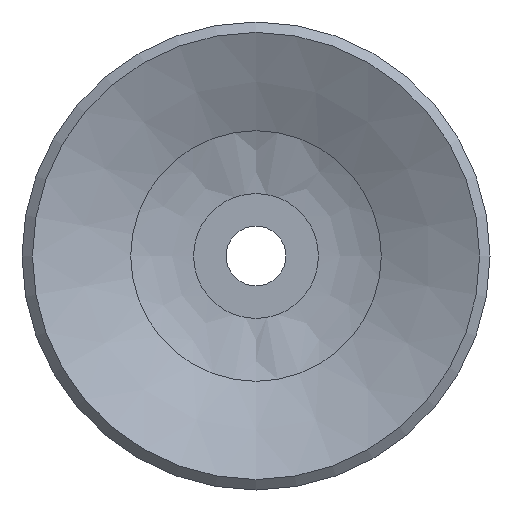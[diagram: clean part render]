
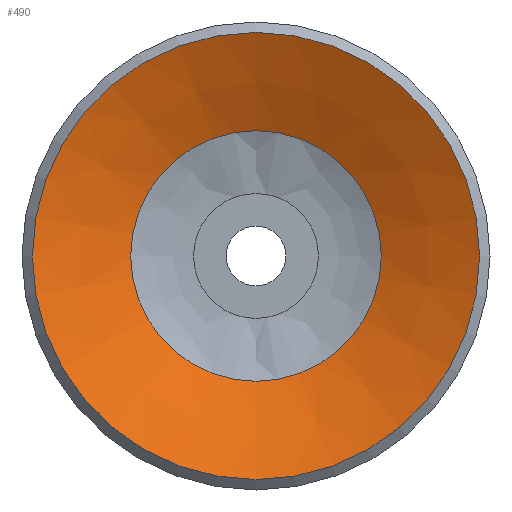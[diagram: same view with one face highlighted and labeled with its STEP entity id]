
A CAD part, front view. The second image highlights one B-rep face of the part: STEP entity #490.
In plain terms, the highlighted conical face has half-angle 65.056 degrees and reference radius 3.2 mm.
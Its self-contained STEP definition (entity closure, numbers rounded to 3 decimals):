
#490=ADVANCED_FACE('',(#726,#727),#728,.F.);
#726=FACE_BOUND('',#975,.T.);
#727=FACE_OUTER_BOUND('',#976,.T.);
#728=CONICAL_SURFACE('',#977,3.2,1.135);
#975=EDGE_LOOP('',(#1649));
#976=EDGE_LOOP('',(#1650));
#977=AXIS2_PLACEMENT_3D('',#1651,#1652,#1653);
#1649=ORIENTED_EDGE('',*,*,#1855,.T.);
#1650=ORIENTED_EDGE('',*,*,#1848,.T.);
#1651=CARTESIAN_POINT('',(0.0,7.896,0.0));
#1652=DIRECTION('',(-0.0,-1.0,0.));
#1653=DIRECTION('',(0.0,0.,-1.0));
#1848=EDGE_CURVE('',#2140,#2140,#2141,.T.);
#1855=EDGE_CURVE('',#2154,#2154,#2155,.T.);
#2140=VERTEX_POINT('',#2788);
#2141=CIRCLE('',#2789,7.5);
#2154=VERTEX_POINT('',#2802);
#2155=CIRCLE('',#2803,4.203);
#2788=CARTESIAN_POINT('',(0.0,5.896,-7.5));
#2789=AXIS2_PLACEMENT_3D('',#3049,#3050,#3051);
#2802=CARTESIAN_POINT('',(0.0,7.43,-4.203));
#2803=AXIS2_PLACEMENT_3D('',#3070,#3071,#3072);
#3049=CARTESIAN_POINT('',(0.0,5.896,0.0));
#3050=DIRECTION('',(0.0,-1.0,0.));
#3051=DIRECTION('',(0.0,0.,-1.0));
#3070=CARTESIAN_POINT('',(0.0,7.43,0.0));
#3071=DIRECTION('',(0.0,1.0,0.));
#3072=DIRECTION('',(0.0,0.,-1.0));
